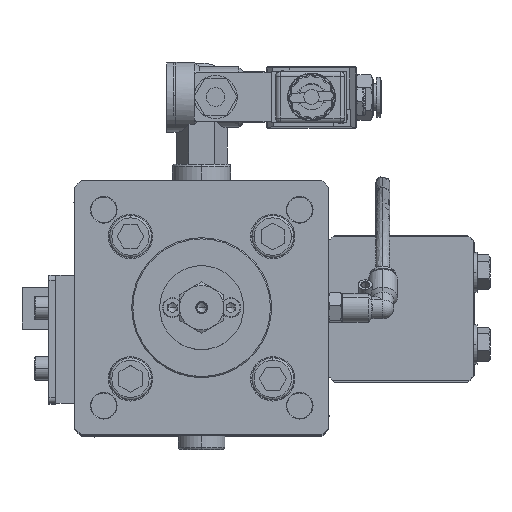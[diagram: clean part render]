
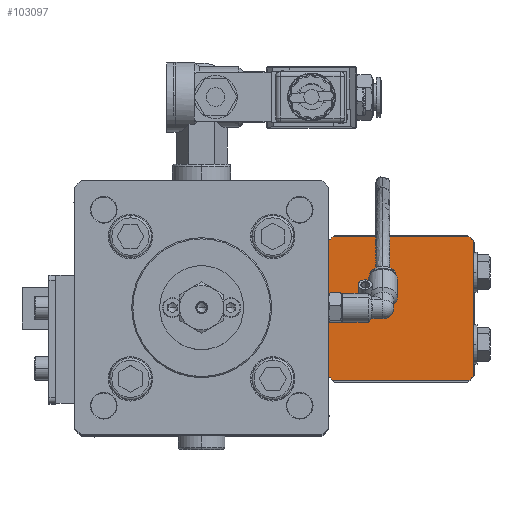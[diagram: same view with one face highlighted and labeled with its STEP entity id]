
A CAD part, top view. The second image highlights one B-rep face of the part: STEP entity #103097.
In plain terms, the highlighted planar face has unit normal (0, 0, 1) as drawn and (0, -1, 0) by its records, which use the part's own axes.
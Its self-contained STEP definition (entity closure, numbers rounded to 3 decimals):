
#615 = DIRECTION ( 'NONE',  ( -1., 0., 0. ) ) ;
#5415 = CARTESIAN_POINT ( 'NONE',  ( 31., 0., 29.073 ) ) ;
#6507 = VECTOR ( 'NONE', #97822, 1000. ) ;
#11220 = CARTESIAN_POINT ( 'NONE',  ( -31., 0., 29.073 ) ) ;
#11456 = DIRECTION ( 'NONE',  ( 0., -1., 0. ) ) ;
#14365 = CARTESIAN_POINT ( 'NONE',  ( 0., 0., 0. ) ) ;
#15341 = DIRECTION ( 'NONE',  ( 0., 0., 1. ) ) ;
#16354 = EDGE_CURVE ( 'NONE', #34501, #88984, #17193, .T. ) ;
#16917 = VERTEX_POINT ( 'NONE', #28751 ) ;
#17193 = CIRCLE ( 'NONE', #75242, 42.5 ) ;
#19399 = ORIENTED_EDGE ( 'NONE', *, *, #78819, .F. ) ;
#20241 = VERTEX_POINT ( 'NONE', #22881 ) ;
#20338 = ORIENTED_EDGE ( 'NONE', *, *, #16354, .T. ) ;
#21007 = CARTESIAN_POINT ( 'NONE',  ( 0., 0., 0. ) ) ;
#22149 = EDGE_CURVE ( 'NONE', #61376, #20241, #77328, .T. ) ;
#22405 = CARTESIAN_POINT ( 'NONE',  ( -31., 0., -31. ) ) ;
#22679 = DIRECTION ( 'NONE',  ( 0., 0., 1. ) ) ;
#22881 = CARTESIAN_POINT ( 'NONE',  ( 31., 0., -29.073 ) ) ;
#24566 = EDGE_CURVE ( 'NONE', #103491, #16917, #80405, .T. ) ;
#26518 = VECTOR ( 'NONE', #80522, 1000. ) ;
#28568 = LINE ( 'NONE', #105445, #6507 ) ;
#28751 = CARTESIAN_POINT ( 'NONE',  ( 29.073, 0., 31. ) ) ;
#29199 = CARTESIAN_POINT ( 'NONE',  ( -31., 0., -29.073 ) ) ;
#29350 = DIRECTION ( 'NONE',  ( 0., 0., 1. ) ) ;
#31620 = CARTESIAN_POINT ( 'NONE',  ( 0., 0., 0. ) ) ;
#31735 = LINE ( 'NONE', #22405, #26518 ) ;
#32659 = VERTEX_POINT ( 'NONE', #97166 ) ;
#34501 = VERTEX_POINT ( 'NONE', #42348 ) ;
#36269 = VECTOR ( 'NONE', #50767, 1000. ) ;
#37369 = EDGE_CURVE ( 'NONE', #34501, #16917, #28568, .T. ) ;
#42348 = CARTESIAN_POINT ( 'NONE',  ( -29.073, 0., 31. ) ) ;
#48305 = DIRECTION ( 'NONE',  ( 0., -1., 0. ) ) ;
#49227 = AXIS2_PLACEMENT_3D ( 'NONE', #31620, #65044, #15341 ) ;
#50767 = DIRECTION ( 'NONE',  ( 0., 0., -1. ) ) ;
#52645 = ORIENTED_EDGE ( 'NONE', *, *, #103439, .T. ) ;
#52892 = ORIENTED_EDGE ( 'NONE', *, *, #99614, .F. ) ;
#54754 = FACE_OUTER_BOUND ( 'NONE', #78185, .T. ) ;
#54876 = CIRCLE ( 'NONE', #75042, 42.5 ) ;
#54977 = CARTESIAN_POINT ( 'NONE',  ( 29.073, 0., -31. ) ) ;
#56697 = PLANE ( 'NONE',  #49227 ) ;
#60433 = ORIENTED_EDGE ( 'NONE', *, *, #22149, .T. ) ;
#60473 = VECTOR ( 'NONE', #615, 1000. ) ;
#61059 = AXIS2_PLACEMENT_3D ( 'NONE', #98075, #48305, #106417 ) ;
#61164 = CARTESIAN_POINT ( 'NONE',  ( 0., 0., 0. ) ) ;
#61376 = VERTEX_POINT ( 'NONE', #54977 ) ;
#64740 = AXIS2_PLACEMENT_3D ( 'NONE', #14365, #72413, #22679 ) ;
#65044 = DIRECTION ( 'NONE',  ( 0., 1., 0. ) ) ;
#68950 = EDGE_CURVE ( 'NONE', #81650, #88984, #31735, .T. ) ;
#69529 = DIRECTION ( 'NONE',  ( 0., 0., 1. ) ) ;
#72413 = DIRECTION ( 'NONE',  ( 0., -1., 0. ) ) ;
#75042 = AXIS2_PLACEMENT_3D ( 'NONE', #21007, #79118, #29350 ) ;
#75242 = AXIS2_PLACEMENT_3D ( 'NONE', #61164, #11456, #69529 ) ;
#77328 = CIRCLE ( 'NONE', #61059, 42.5 ) ;
#78185 = EDGE_LOOP ( 'NONE', ( #20338, #102663, #52645, #19399, #60433, #52892, #89502, #82692 ) ) ;
#78819 = EDGE_CURVE ( 'NONE', #61376, #32659, #79986, .T. ) ;
#79118 = DIRECTION ( 'NONE',  ( 0., -1., 0. ) ) ;
#79986 = LINE ( 'NONE', #83782, #60473 ) ;
#80405 = CIRCLE ( 'NONE', #64740, 42.5 ) ;
#80522 = DIRECTION ( 'NONE',  ( 0., 0., 1. ) ) ;
#81650 = VERTEX_POINT ( 'NONE', #29199 ) ;
#82692 = ORIENTED_EDGE ( 'NONE', *, *, #37369, .F. ) ;
#83782 = CARTESIAN_POINT ( 'NONE',  ( -31., 0., -31. ) ) ;
#88984 = VERTEX_POINT ( 'NONE', #11220 ) ;
#89502 = ORIENTED_EDGE ( 'NONE', *, *, #24566, .T. ) ;
#92160 = CARTESIAN_POINT ( 'NONE',  ( 31., 0., -31. ) ) ;
#97166 = CARTESIAN_POINT ( 'NONE',  ( -29.073, 0., -31. ) ) ;
#97822 = DIRECTION ( 'NONE',  ( 1., 0., 0. ) ) ;
#98075 = CARTESIAN_POINT ( 'NONE',  ( 0., 0., 0. ) ) ;
#99614 = EDGE_CURVE ( 'NONE', #103491, #20241, #105162, .T. ) ;
#102663 = ORIENTED_EDGE ( 'NONE', *, *, #68950, .F. ) ;
#103097 = ADVANCED_FACE ( 'NONE', ( #54754 ), #56697, .F. ) ;
#103439 = EDGE_CURVE ( 'NONE', #81650, #32659, #54876, .T. ) ;
#103491 = VERTEX_POINT ( 'NONE', #5415 ) ;
#105162 = LINE ( 'NONE', #92160, #36269 ) ;
#105445 = CARTESIAN_POINT ( 'NONE',  ( -31., 0., 31. ) ) ;
#106417 = DIRECTION ( 'NONE',  ( 0., 0., 1. ) ) ;
